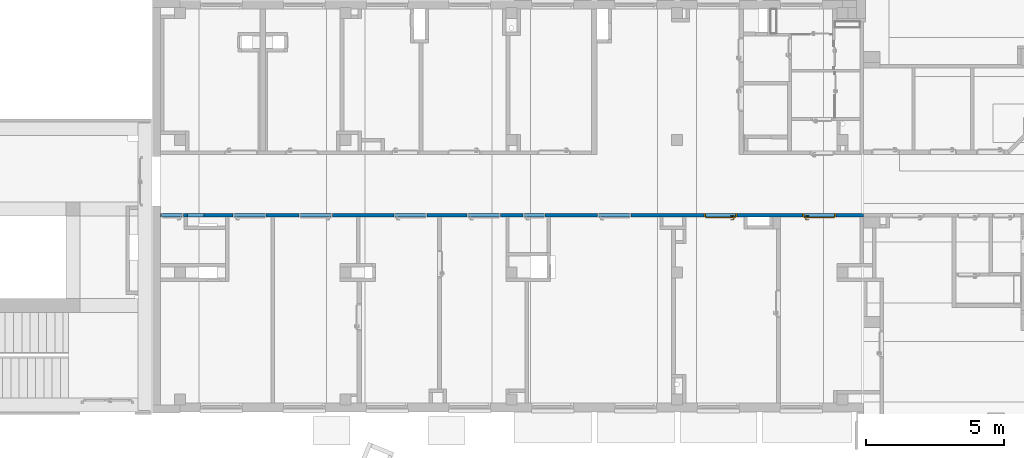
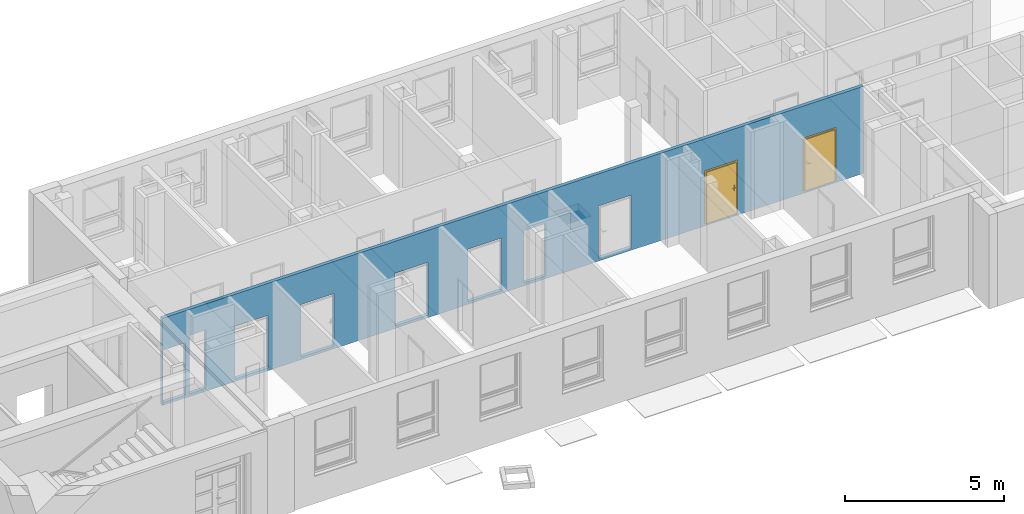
# One storey, part 18 of 140: 2 doors, 1 wall, 10 openings.
"""IFC4 building model written with IfcOpenShell, lengths in metres."""

from ifc_helpers import new_model, entity, si_unit, converted_unit, derived_unit, frame, frame_2d, origin, origin_with_axes, place, context, subcontext, project, spatial, polyline, rectangle, outline, extrude, closed_shell, open_shell, surface_model, source, transform, mapped, material, layer, layer_set, layer_usage, type_object, element, fill, save


model = new_model("IFC4")

# Units and contexts
model_context = context("Model", 3, precision=1e-05, world=origin())
body_context = subcontext(model_context, "Body", "Model", "MODEL_VIEW")
ifc_project = project(units=[si_unit("LENGTHUNIT", "METRE"), si_unit("AREAUNIT", "SQUARE_METRE"), si_unit("VOLUMEUNIT", "CUBIC_METRE"), si_unit("MASSUNIT", "GRAM", prefix="KILO"), converted_unit("PLANEANGLEUNIT", "DEGREE", entity("IfcPlaneAngleMeasure", 0.0174532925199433), si_unit("PLANEANGLEUNIT", "RADIAN"), dimensions=[0, 0, 0, 0, 0, 0, 0]), derived_unit("THERMALTRANSMITTANCEUNIT", [(si_unit("POWERUNIT", "WATT"), 1), (si_unit("THERMODYNAMICTEMPERATUREUNIT", "KELVIN"), -1), (si_unit("LENGTHUNIT", "METRE"), -2)]), derived_unit("VOLUMETRICFLOWRATEUNIT", [(si_unit("LENGTHUNIT", "METRE"), 3), (converted_unit("TIMEUNIT", "hour", entity("IfcTimeMeasure", 3600.0), si_unit("TIMEUNIT", "SECOND"), dimensions=[0, 0, 1, 0, 0, 0, 0]), -1), (si_unit("LENGTHUNIT", "METRE"), -1)])], contexts=[model_context])

# Site, building, storey
site_placement = place(None, origin())
site = spatial("IfcSite", under=ifc_project, at=site_placement, Name="3. ASŘ", CompositionType="ELEMENT")
building_placement = place(site_placement, origin())
building = spatial("IfcBuilding", under=site, at=building_placement, Name="Pavilon C", CompositionType="ELEMENT")
storey_placement = place(building_placement, origin())
storey = spatial("IfcBuildingStorey", under=building, at=storey_placement, Name="Půdorys 1.NP", CompositionType="ELEMENT", Elevation=0.0)

# Wall, openings, doors
ifc_material = material(Name="ZDIVO Z CDm")
ifc_layer = layer(ifc_material, 0.125)
ifc_layer_set = layer_set([ifc_layer])
ifc_layer_usage = layer_usage(ifc_layer_set, "AXIS2", "POSITIVE", 0.0)
wall_placement = place(storey_placement, frame((24.75, 7.525, -0.1), z_axis=(0.0, 0.0, 1.0), x_axis=(-1.0, 0.0, 0.0)))
wall = element("IfcWall", 1, at=wall_placement, inside=storey, material=ifc_layer_usage, Name="ZDIVO Z CDm", context=body_context, shape_type="SweptSolid", body=[
    extrude(rectangle(XDim=25.45, YDim=0.125, at=frame_2d((12.725, 0.0625), x_axis=(1.0, 0.0))), origin_with_axes(), (0.0, 0.0, 1.0), 3.35),
])
opening_1_placement = place(wall_placement, frame((1.00000000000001, 0.0, 0.1), z_axis=(0.0, 1.0, 0.0), x_axis=(0.0, 0.0, 1.0)))
opening_1 = element("IfcOpeningElement", 2, at=opening_1_placement, cuts=wall, Name="Dveřní otvor", ObjectType="Opening", context=body_context, shape_type="SweptSolid", body=[
    extrude(outline(polyline([(0.0, 1.2), (2.02, 1.2), (2.02, 0.0), (0.0, 0.0), (0.0, 1.2)])), origin_with_axes(), (0.0, 0.0, 1.0), 0.125),
])
opening_2_placement = place(wall_placement, frame((5.77499999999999, 0.125, 0.1), z_axis=(0.0, -1.0, 0.0), x_axis=(0.0, 0.0, 1.0)))
opening_2 = element("IfcOpeningElement", 3, at=opening_2_placement, cuts=wall, Name="Dveřní otvor", ObjectType="Opening", context=body_context, shape_type="SweptSolid", body=[
    extrude(outline(polyline([(0.0, 1.2), (2.02, 1.2), (2.02, 0.0), (0.0, 0.0), (0.0, 1.2)])), origin_with_axes(), (0.0, 0.0, 1.0), 0.125),
])
opening_3_placement = place(wall_placement, frame((17.005, 0.125, 0.1), z_axis=(0.0, -1.0, 0.0), x_axis=(0.0, 0.0, 1.0)))
element("IfcOpeningElement", 4, at=opening_3_placement, cuts=wall, Name="Dveřní otvor", ObjectType="Opening", context=body_context, shape_type="SweptSolid", body=[
    extrude(outline(polyline([(0.0, 1.2), (2.02, 1.2), (2.02, 0.0), (0.0, 0.0), (0.0, 1.2)])), origin_with_axes(), (0.0, 0.0, 1.0), 0.125),
])
opening_4_placement = place(wall_placement, frame((20.43, 0.125, 0.1), z_axis=(0.0, -1.0, 0.0), x_axis=(0.0, 0.0, 1.0)))
element("IfcOpeningElement", 5, at=opening_4_placement, cuts=wall, Name="Dveřní otvor", ObjectType="Opening", context=body_context, shape_type="SweptSolid", body=[
    extrude(outline(polyline([(0.0, 1.2), (2.02, 1.2), (2.02, 0.0), (0.0, 0.0), (0.0, 1.2)])), origin_with_axes(), (0.0, 0.0, 1.0), 0.125),
])
opening_5_placement = place(wall_placement, frame((23.88, 0.0, 0.1), z_axis=(0.0, 1.0, 0.0), x_axis=(0.0, 0.0, 1.0)))
element("IfcOpeningElement", 6, at=opening_5_placement, cuts=wall, Name="Dveřní otvor", ObjectType="Opening", context=body_context, shape_type="SweptSolid", body=[
    extrude(outline(polyline([(0.0, 0.6), (2.25, 0.6), (2.25, 0.0), (0.0, 0.0), (0.0, 0.6)])), origin_with_axes(), (0.0, 0.0, 1.0), 0.125),
])
opening_6_placement = place(wall_placement, frame((24.625, 0.0, 0.1), z_axis=(0.0, 1.0, 0.0), x_axis=(0.0, 0.0, 1.0)))
element("IfcOpeningElement", 7, at=opening_6_placement, cuts=wall, Name="Dveřní otvor", ObjectType="Opening", context=body_context, shape_type="SweptSolid", body=[
    extrude(outline(polyline([(0.0, 0.8), (2.02, 0.8), (2.02, 0.0), (0.0, 0.0), (0.0, 0.8)])), origin_with_axes(), (0.0, 0.0, 1.0), 0.125),
])
opening_7_placement = place(wall_placement, frame((21.625, 0.0, 0.1), z_axis=(0.0, 1.0, 0.0), x_axis=(0.0, 0.0, 1.0)))
element("IfcOpeningElement", 8, at=opening_7_placement, cuts=wall, Name="Dveřní otvor", ObjectType="Opening", context=body_context, shape_type="SweptSolid", body=[
    extrude(outline(polyline([(0.0, 1.2), (2.02, 1.2), (2.02, 0.0), (0.0, 0.0), (0.0, 1.2)])), origin_with_axes(), (0.0, 0.0, 1.0), 0.125),
])
opening_8_placement = place(wall_placement, frame((13.15, 0.0, 0.1), z_axis=(0.0, 1.0, 0.0), x_axis=(0.0, 0.0, 1.0)))
element("IfcOpeningElement", 9, at=opening_8_placement, cuts=wall, Name="Dveřní otvor", ObjectType="Opening", context=body_context, shape_type="SweptSolid", body=[
    extrude(outline(polyline([(0.0, 1.2), (2.02, 1.2), (2.02, 0.0), (0.0, 0.0), (0.0, 1.2)])), origin_with_axes(), (0.0, 0.0, 1.0), 0.125),
])
opening_9_placement = place(wall_placement, frame((11.525, 0.0, 0.1), z_axis=(0.0, 1.0, 0.0), x_axis=(0.0, 0.0, 1.0)))
element("IfcOpeningElement", 10, at=opening_9_placement, cuts=wall, Name="Dveřní otvor", ObjectType="Opening", context=body_context, shape_type="SweptSolid", body=[
    extrude(outline(polyline([(0.0, 0.8), (2.02, 0.8), (2.02, 0.0), (0.0, 0.0), (0.0, 0.8)])), origin_with_axes(), (0.0, 0.0, 1.0), 0.125),
])
opening_10_placement = place(wall_placement, frame((8.425, 0.0, 0.1), z_axis=(0.0, 1.0, 0.0), x_axis=(0.0, 0.0, 1.0)))
element("IfcOpeningElement", 11, at=opening_10_placement, cuts=wall, Name="Dveřní otvor", ObjectType="Opening", context=body_context, shape_type="SweptSolid", body=[
    extrude(outline(polyline([(0.0, 1.2), (2.02, 1.2), (2.02, 0.0), (0.0, 0.0), (0.0, 1.2)])), origin_with_axes(), (0.0, 0.0, 1.0), 0.125),
])
door_type_1 = type_object("IfcDoorType", Name="D101", OperationType="NOTDEFINED", ParameterTakesPrecedence=False, PredefinedType="DOOR")
shared_shape_1 = source(origin_with_axes(), body_context, "Body", "SurfaceModel", [
    surface_model("IfcShellBasedSurfaceModel", [(0.0, 0.125, 2.02), (0.0, 0.125, -7.65404249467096e-18), (0.05, 0.125, -7.65404249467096e-18), (0.05, 0.125, 2.02), (0.0, 0.0, 7.65404249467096e-18), (0.0, 2.41584530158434e-16, 2.02), (0.05, 2.41584530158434e-16, 2.02), (0.05, 0.0, 7.65404249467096e-18)], [closed_shell([[[0, 1, 2, 3]], [[4, 5, 6, 7]], [[1, 0, 5, 4]], [[2, 1, 4, 7]], [[3, 2, 7, 6]], [[0, 3, 6, 5]]], orient=[[False], [False], [False], [False], [False], [False]])]),
    surface_model("IfcShellBasedSurfaceModel", [(1.15, 0.125, 2.02), (1.15, 0.125, -7.65404249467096e-18), (1.2, 0.125, -7.65404249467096e-18), (1.2, 0.125, 2.02), (1.15, 0.0, 7.65404249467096e-18), (1.15, 2.41584530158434e-16, 2.02), (1.2, 2.41584530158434e-16, 2.02), (1.2, 0.0, 7.65404249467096e-18)], [closed_shell([[[0, 1, 2, 3]], [[4, 5, 6, 7]], [[1, 0, 5, 4]], [[2, 1, 4, 7]], [[3, 2, 7, 6]], [[0, 3, 6, 5]]], orient=[[False], [False], [False], [False], [False], [False]])]),
    surface_model("IfcShellBasedSurfaceModel", [(0.05, 0.125, 2.02), (0.05, 0.125, 1.97), (1.15, 0.125, 1.97), (1.15, 0.125, 2.02), (0.05, 2.41584530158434e-16, 1.97), (0.05, 2.41584530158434e-16, 2.02), (1.15, 2.41584530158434e-16, 2.02), (1.15, 2.41584530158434e-16, 1.97)], [closed_shell([[[0, 1, 2, 3]], [[4, 5, 6, 7]], [[1, 0, 5, 4]], [[2, 1, 4, 7]], [[3, 2, 7, 6]], [[0, 3, 6, 5]]], orient=[[False], [False], [False], [False], [False], [False]])]),
    surface_model("IfcShellBasedSurfaceModel", [(0.05, 0.165, 1.97), (0.05, 0.165, -1.25526296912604e-17), (1.15, 0.165, -1.25526296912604e-17), (1.15, 0.165, 1.97), (0.05, 0.125, -7.65404249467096e-18), (0.05, 0.125, 1.97), (1.15, 0.125, 1.97), (1.15, 0.125, -7.65404249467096e-18)], [closed_shell([[[0, 1, 2, 3]], [[4, 5, 6, 7]], [[1, 0, 5, 4]], [[2, 1, 4, 7]], [[3, 2, 7, 6]], [[0, 3, 6, 5]]], orient=[[False], [False], [False], [False], [False], [False]])]),
    surface_model("IfcShellBasedSurfaceModel", [(1.06, 0.125, 1.125), (1.06, 0.125, 0.91), (1.11, 0.125, 0.91), (1.11, 0.125, 1.125), (1.06, 0.115, 0.91), (1.06, 0.115, 1.125), (1.11, 0.115, 1.125), (1.11, 0.115, 0.91)], [closed_shell([[[0, 1, 2, 3]], [[4, 5, 6, 7]], [[1, 0, 5, 4]], [[2, 1, 4, 7]], [[3, 2, 7, 6]], [[0, 3, 6, 5]]], orient=[[False], [False], [False], [False], [False], [False]])]),
    surface_model("IfcShellBasedSurfaceModel", [(1.085, 0.115, 1.06), (1.08, 0.115, 1.05866025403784), (1.07633974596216, 0.115, 1.055), (1.075, 0.115, 1.05), (1.07633974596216, 0.115, 1.045), (1.08, 0.115, 1.04133974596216), (1.085, 0.115, 1.04), (1.09, 0.115, 1.04133974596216), (1.09366025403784, 0.115, 1.045), (1.095, 0.115, 1.05), (1.09366025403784, 0.115, 1.055), (1.09, 0.115, 1.05866025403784), (1.09, 0.0700000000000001, 1.05866025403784), (1.085, 0.0750000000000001, 1.06), (1.09366025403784, 0.0663397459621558, 1.055), (1.095, 0.0650000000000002, 1.05), (1.09366025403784, 0.0663397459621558, 1.045), (1.09, 0.0700000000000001, 1.04133974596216), (1.085, 0.0750000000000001, 1.04), (1.08, 0.0800000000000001, 1.04133974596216), (1.07633974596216, 0.0836602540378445, 1.045), (1.075, 0.0850000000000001, 1.05), (1.07633974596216, 0.0836602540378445, 1.055), (1.08, 0.0800000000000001, 1.05866025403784), (0.97, 0.0700000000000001, 1.05866025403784), (0.97, 0.0750000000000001, 1.06), (0.97, 0.0663397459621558, 1.055), (0.97, 0.0650000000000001, 1.05), (0.97, 0.0663397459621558, 1.045), (0.97, 0.0700000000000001, 1.04133974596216), (0.97, 0.0750000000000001, 1.04), (0.97, 0.0800000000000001, 1.04133974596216), (0.97, 0.0836602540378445, 1.045), (0.97, 0.0850000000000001, 1.05), (0.97, 0.0836602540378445, 1.055), (0.97, 0.0800000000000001, 1.05866025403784)], [open_shell([[[0, 1, 2, 3, 4, 5, 6, 7, 8, 9, 10, 11]], [[0, 11, 12, 13]], [[11, 10, 14, 12]], [[10, 9, 15, 14]], [[9, 8, 16, 15]], [[8, 7, 17, 16]], [[7, 6, 18, 17]], [[6, 5, 19, 18]], [[5, 4, 20, 19]], [[4, 3, 21, 20]], [[3, 2, 22, 21]], [[2, 1, 23, 22]], [[1, 0, 13, 23]], [[13, 12, 24, 25]], [[12, 14, 26, 24]], [[14, 15, 27, 26]], [[15, 16, 28, 27]], [[16, 17, 29, 28]], [[17, 18, 30, 29]], [[18, 19, 31, 30]], [[19, 20, 32, 31]], [[20, 21, 33, 32]], [[21, 22, 34, 33]], [[22, 23, 35, 34]], [[23, 13, 25, 35]]], orient=[[False], [False], [False], [False], [False], [False], [False], [False], [False], [False], [False], [False], [False], [False], [False], [False], [False], [False], [False], [False], [False], [False], [False], [False], [False]])]),
    surface_model("IfcShellBasedSurfaceModel", [(1.06, 0.165, 1.125), (1.11, 0.165, 1.125), (1.11, 0.165, 0.91), (1.06, 0.165, 0.91), (1.06, 0.175, 0.91), (1.11, 0.175, 0.91), (1.11, 0.175, 1.125), (1.06, 0.175, 1.125)], [closed_shell([[[0, 1, 2, 3]], [[4, 5, 6, 7]], [[3, 4, 7, 0]], [[2, 5, 4, 3]], [[1, 6, 5, 2]], [[0, 7, 6, 1]]], orient=[[False], [False], [False], [False], [False], [False]])]),
    surface_model("IfcShellBasedSurfaceModel", [(1.085, 0.175, 1.06), (1.09, 0.175, 1.05866025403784), (1.09366025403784, 0.175, 1.055), (1.095, 0.175, 1.05), (1.09366025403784, 0.175, 1.045), (1.09, 0.175, 1.04133974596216), (1.085, 0.175, 1.04), (1.08, 0.175, 1.04133974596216), (1.07633974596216, 0.175, 1.045), (1.075, 0.175, 1.05), (1.07633974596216, 0.175, 1.055), (1.08, 0.175, 1.05866025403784), (1.085, 0.215, 1.06), (1.09, 0.22, 1.05866025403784), (1.09366025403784, 0.223660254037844, 1.055), (1.095, 0.225, 1.05), (1.09366025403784, 0.223660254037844, 1.045), (1.09, 0.22, 1.04133974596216), (1.085, 0.215, 1.04), (1.08, 0.21, 1.04133974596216), (1.07633974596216, 0.206339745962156, 1.045), (1.075, 0.205, 1.05), (1.07633974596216, 0.206339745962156, 1.055), (1.08, 0.21, 1.05866025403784), (0.97, 0.215, 1.06), (0.97, 0.22, 1.05866025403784), (0.97, 0.223660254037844, 1.055), (0.97, 0.225, 1.05), (0.97, 0.223660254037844, 1.045), (0.97, 0.22, 1.04133974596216), (0.97, 0.215, 1.04), (0.97, 0.21, 1.04133974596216), (0.97, 0.206339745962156, 1.045), (0.97, 0.205, 1.05), (0.97, 0.206339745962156, 1.055), (0.97, 0.21, 1.05866025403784)], [open_shell([[[0, 1, 2, 3, 4, 5, 6, 7, 8, 9, 10, 11]], [[0, 12, 13, 1]], [[1, 13, 14, 2]], [[2, 14, 15, 3]], [[3, 15, 16, 4]], [[4, 16, 17, 5]], [[5, 17, 18, 6]], [[6, 18, 19, 7]], [[7, 19, 20, 8]], [[8, 20, 21, 9]], [[9, 21, 22, 10]], [[10, 22, 23, 11]], [[11, 23, 12, 0]], [[12, 24, 25, 13]], [[13, 25, 26, 14]], [[14, 26, 27, 15]], [[15, 27, 28, 16]], [[16, 28, 29, 17]], [[17, 29, 30, 18]], [[18, 30, 31, 19]], [[19, 31, 32, 20]], [[20, 32, 33, 21]], [[21, 33, 34, 22]], [[22, 34, 35, 23]], [[23, 35, 24, 12]]], orient=[[False], [False], [False], [False], [False], [False], [False], [False], [False], [False], [False], [False], [False], [False], [False], [False], [False], [False], [False], [False], [False], [False], [False], [False], [False]])]),
])
door_1_placement = place(opening_2_placement, frame((0.0, 0.0, 0.125), z_axis=(1.0, 0.0, 0.0), x_axis=(0.0, 1.0, -1.22464679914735e-16)))
door_1 = element("IfcDoor", 12, at=door_1_placement, inside=storey, type_object=door_type_1, Name="D101", OverallHeight=2.02, OverallWidth=1.2, context=body_context, shape_type="MappedRepresentation", body=[
    mapped(shared_shape_1, transform((0.0, 0.0, 0.0), x_axis=(1.0, 0.0, 0.0), y_axis=(0.0, -1.0, 0.0), z_axis=(0.0, 0.0, 1.0), scale=1.0)),
])
fill(opening_2, door_1)
door_type_2 = type_object("IfcDoorType", Name="D101", OperationType="NOTDEFINED", ParameterTakesPrecedence=False, PredefinedType="DOOR")
shared_shape_2 = source(origin_with_axes(), body_context, "Body", "SurfaceModel", [
    surface_model("IfcShellBasedSurfaceModel", [(0.0, 0.125, 2.02), (0.0, 0.125, -7.65404249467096e-18), (0.05, 0.125, -7.65404249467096e-18), (0.05, 0.125, 2.02), (0.0, 0.0, 7.65404249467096e-18), (0.0, 2.41584530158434e-16, 2.02), (0.05, 2.41584530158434e-16, 2.02), (0.05, 0.0, 7.65404249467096e-18)], [closed_shell([[[0, 1, 2, 3]], [[4, 5, 6, 7]], [[1, 0, 5, 4]], [[2, 1, 4, 7]], [[3, 2, 7, 6]], [[0, 3, 6, 5]]], orient=[[False], [False], [False], [False], [False], [False]])]),
    surface_model("IfcShellBasedSurfaceModel", [(1.15, 0.125, 2.02), (1.15, 0.125, -7.65404249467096e-18), (1.2, 0.125, -7.65404249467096e-18), (1.2, 0.125, 2.02), (1.15, 0.0, 7.65404249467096e-18), (1.15, 2.41584530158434e-16, 2.02), (1.2, 2.41584530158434e-16, 2.02), (1.2, 0.0, 7.65404249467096e-18)], [closed_shell([[[0, 1, 2, 3]], [[4, 5, 6, 7]], [[1, 0, 5, 4]], [[2, 1, 4, 7]], [[3, 2, 7, 6]], [[0, 3, 6, 5]]], orient=[[False], [False], [False], [False], [False], [False]])]),
    surface_model("IfcShellBasedSurfaceModel", [(0.05, 0.125, 2.02), (0.05, 0.125, 1.97), (1.15, 0.125, 1.97), (1.15, 0.125, 2.02), (0.05, 2.41584530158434e-16, 1.97), (0.05, 2.41584530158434e-16, 2.02), (1.15, 2.41584530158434e-16, 2.02), (1.15, 2.41584530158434e-16, 1.97)], [closed_shell([[[0, 1, 2, 3]], [[4, 5, 6, 7]], [[1, 0, 5, 4]], [[2, 1, 4, 7]], [[3, 2, 7, 6]], [[0, 3, 6, 5]]], orient=[[False], [False], [False], [False], [False], [False]])]),
    surface_model("IfcShellBasedSurfaceModel", [(0.05, 0.165, 1.97), (0.05, 0.165, -1.25526296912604e-17), (1.15, 0.165, -1.25526296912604e-17), (1.15, 0.165, 1.97), (0.05, 0.125, -7.65404249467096e-18), (0.05, 0.125, 1.97), (1.15, 0.125, 1.97), (1.15, 0.125, -7.65404249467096e-18)], [closed_shell([[[0, 1, 2, 3]], [[4, 5, 6, 7]], [[1, 0, 5, 4]], [[2, 1, 4, 7]], [[3, 2, 7, 6]], [[0, 3, 6, 5]]], orient=[[False], [False], [False], [False], [False], [False]])]),
    surface_model("IfcShellBasedSurfaceModel", [(1.06, 0.125, 1.125), (1.06, 0.125, 0.91), (1.11, 0.125, 0.91), (1.11, 0.125, 1.125), (1.06, 0.115, 0.91), (1.06, 0.115, 1.125), (1.11, 0.115, 1.125), (1.11, 0.115, 0.91)], [closed_shell([[[0, 1, 2, 3]], [[4, 5, 6, 7]], [[1, 0, 5, 4]], [[2, 1, 4, 7]], [[3, 2, 7, 6]], [[0, 3, 6, 5]]], orient=[[False], [False], [False], [False], [False], [False]])]),
    surface_model("IfcShellBasedSurfaceModel", [(1.085, 0.115, 1.06), (1.08, 0.115, 1.05866025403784), (1.07633974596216, 0.115, 1.055), (1.075, 0.115, 1.05), (1.07633974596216, 0.115, 1.045), (1.08, 0.115, 1.04133974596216), (1.085, 0.115, 1.04), (1.09, 0.115, 1.04133974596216), (1.09366025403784, 0.115, 1.045), (1.095, 0.115, 1.05), (1.09366025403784, 0.115, 1.055), (1.09, 0.115, 1.05866025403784), (1.09, 0.0700000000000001, 1.05866025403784), (1.085, 0.0750000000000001, 1.06), (1.09366025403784, 0.0663397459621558, 1.055), (1.095, 0.0650000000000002, 1.05), (1.09366025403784, 0.0663397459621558, 1.045), (1.09, 0.0700000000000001, 1.04133974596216), (1.085, 0.0750000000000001, 1.04), (1.08, 0.0800000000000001, 1.04133974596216), (1.07633974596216, 0.0836602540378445, 1.045), (1.075, 0.0850000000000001, 1.05), (1.07633974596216, 0.0836602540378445, 1.055), (1.08, 0.0800000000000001, 1.05866025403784), (0.97, 0.0700000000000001, 1.05866025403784), (0.97, 0.0750000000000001, 1.06), (0.97, 0.0663397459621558, 1.055), (0.97, 0.0650000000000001, 1.05), (0.97, 0.0663397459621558, 1.045), (0.97, 0.0700000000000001, 1.04133974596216), (0.97, 0.0750000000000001, 1.04), (0.97, 0.0800000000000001, 1.04133974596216), (0.97, 0.0836602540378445, 1.045), (0.97, 0.0850000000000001, 1.05), (0.97, 0.0836602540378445, 1.055), (0.97, 0.0800000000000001, 1.05866025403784)], [open_shell([[[0, 1, 2, 3, 4, 5, 6, 7, 8, 9, 10, 11]], [[0, 11, 12, 13]], [[11, 10, 14, 12]], [[10, 9, 15, 14]], [[9, 8, 16, 15]], [[8, 7, 17, 16]], [[7, 6, 18, 17]], [[6, 5, 19, 18]], [[5, 4, 20, 19]], [[4, 3, 21, 20]], [[3, 2, 22, 21]], [[2, 1, 23, 22]], [[1, 0, 13, 23]], [[13, 12, 24, 25]], [[12, 14, 26, 24]], [[14, 15, 27, 26]], [[15, 16, 28, 27]], [[16, 17, 29, 28]], [[17, 18, 30, 29]], [[18, 19, 31, 30]], [[19, 20, 32, 31]], [[20, 21, 33, 32]], [[21, 22, 34, 33]], [[22, 23, 35, 34]], [[23, 13, 25, 35]]], orient=[[False], [False], [False], [False], [False], [False], [False], [False], [False], [False], [False], [False], [False], [False], [False], [False], [False], [False], [False], [False], [False], [False], [False], [False], [False]])]),
    surface_model("IfcShellBasedSurfaceModel", [(1.06, 0.165, 1.125), (1.11, 0.165, 1.125), (1.11, 0.165, 0.91), (1.06, 0.165, 0.91), (1.06, 0.175, 0.91), (1.11, 0.175, 0.91), (1.11, 0.175, 1.125), (1.06, 0.175, 1.125)], [closed_shell([[[0, 1, 2, 3]], [[4, 5, 6, 7]], [[3, 4, 7, 0]], [[2, 5, 4, 3]], [[1, 6, 5, 2]], [[0, 7, 6, 1]]], orient=[[False], [False], [False], [False], [False], [False]])]),
    surface_model("IfcShellBasedSurfaceModel", [(1.085, 0.175, 1.06), (1.09, 0.175, 1.05866025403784), (1.09366025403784, 0.175, 1.055), (1.095, 0.175, 1.05), (1.09366025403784, 0.175, 1.045), (1.09, 0.175, 1.04133974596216), (1.085, 0.175, 1.04), (1.08, 0.175, 1.04133974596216), (1.07633974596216, 0.175, 1.045), (1.075, 0.175, 1.05), (1.07633974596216, 0.175, 1.055), (1.08, 0.175, 1.05866025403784), (1.085, 0.215, 1.06), (1.09, 0.22, 1.05866025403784), (1.09366025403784, 0.223660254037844, 1.055), (1.095, 0.225, 1.05), (1.09366025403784, 0.223660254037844, 1.045), (1.09, 0.22, 1.04133974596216), (1.085, 0.215, 1.04), (1.08, 0.21, 1.04133974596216), (1.07633974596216, 0.206339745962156, 1.045), (1.075, 0.205, 1.05), (1.07633974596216, 0.206339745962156, 1.055), (1.08, 0.21, 1.05866025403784), (0.97, 0.215, 1.06), (0.97, 0.22, 1.05866025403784), (0.97, 0.223660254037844, 1.055), (0.97, 0.225, 1.05), (0.97, 0.223660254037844, 1.045), (0.97, 0.22, 1.04133974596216), (0.97, 0.215, 1.04), (0.97, 0.21, 1.04133974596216), (0.97, 0.206339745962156, 1.045), (0.97, 0.205, 1.05), (0.97, 0.206339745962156, 1.055), (0.97, 0.21, 1.05866025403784)], [open_shell([[[0, 1, 2, 3, 4, 5, 6, 7, 8, 9, 10, 11]], [[0, 12, 13, 1]], [[1, 13, 14, 2]], [[2, 14, 15, 3]], [[3, 15, 16, 4]], [[4, 16, 17, 5]], [[5, 17, 18, 6]], [[6, 18, 19, 7]], [[7, 19, 20, 8]], [[8, 20, 21, 9]], [[9, 21, 22, 10]], [[10, 22, 23, 11]], [[11, 23, 12, 0]], [[12, 24, 25, 13]], [[13, 25, 26, 14]], [[14, 26, 27, 15]], [[15, 27, 28, 16]], [[16, 28, 29, 17]], [[17, 29, 30, 18]], [[18, 30, 31, 19]], [[19, 31, 32, 20]], [[20, 32, 33, 21]], [[21, 33, 34, 22]], [[22, 34, 35, 23]], [[23, 35, 24, 12]]], orient=[[False], [False], [False], [False], [False], [False], [False], [False], [False], [False], [False], [False], [False], [False], [False], [False], [False], [False], [False], [False], [False], [False], [False], [False], [False]])]),
])
door_2_placement = place(opening_1_placement, frame((0.0, 0.0, 0.0), z_axis=(1.0, 0.0, 0.0), x_axis=(0.0, 1.0, -1.22464679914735e-16)))
door_2 = element("IfcDoor", 13, at=door_2_placement, inside=storey, type_object=door_type_2, Name="D101", OverallHeight=2.02, OverallWidth=1.2, context=body_context, shape_type="MappedRepresentation", body=[
    mapped(shared_shape_2, transform((0.0, 0.0, 0.0), x_axis=(1.0, 0.0, 0.0), y_axis=(0.0, 1.0, 0.0), z_axis=(0.0, 0.0, 1.0), scale=1.0)),
])
fill(opening_1, door_2)

save(model, "model.ifc")
